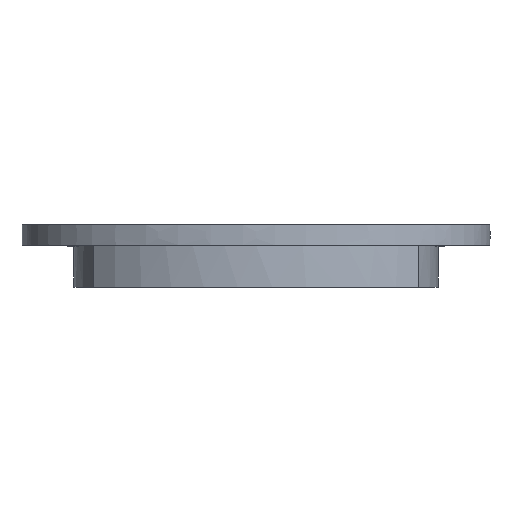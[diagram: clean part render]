
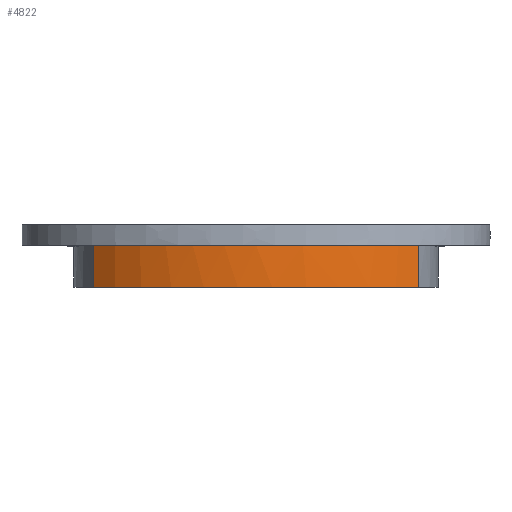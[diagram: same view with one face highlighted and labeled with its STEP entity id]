
A CAD part, front view. The second image highlights one B-rep face of the part: STEP entity #4822.
In plain terms, the highlighted free-form (B-spline) face has degree [1, 2] with [2, 5] control points.
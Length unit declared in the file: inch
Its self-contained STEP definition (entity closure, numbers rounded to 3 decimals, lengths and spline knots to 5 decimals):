
#15=(
BOUNDED_SURFACE()
B_SPLINE_SURFACE(1,2,((#9486,#9487,#9488,#9489,#9490),(#9491,#9492,#9493,
#9494,#9495)),.UNSPECIFIED.,.F.,.F.,.F.)
B_SPLINE_SURFACE_WITH_KNOTS((2,2),(3,2,3),(-0.008,0.19988),(-2.50496,
-1.5708,-0.63664),.UNSPECIFIED.)
GEOMETRIC_REPRESENTATION_ITEM()
RATIONAL_B_SPLINE_SURFACE(((1.,0.893,1.,0.893,1.),
(1.,0.893,1.,0.893,1.)))
REPRESENTATION_ITEM('')
SURFACE()
);
#18=ELLIPSE('',#4988,2.5,1.7);
#329=B_SPLINE_CURVE_WITH_KNOTS('',3,(#9497,#9498,#9499,#9500,#9501,#9502,
#9503,#9504),.UNSPECIFIED.,.F.,.F.,(4,2,2,4),(-5.3184,-4.86014,
-2.03043,0.),.UNSPECIFIED.);
#330=B_SPLINE_CURVE_WITH_KNOTS('',3,(#9506,#9507,#9508,#9509,#9510,#9511,
#9512,#9513),.UNSPECIFIED.,.F.,.F.,(4,2,2,4),(-10.37834,-9.11667,
-7.75661,-5.3184),.UNSPECIFIED.);
#906=LINE('',#9484,#1245);
#908=LINE('',#9514,#1247);
#1245=VECTOR('',#5674,0.3937);
#1247=VECTOR('',#5676,0.3937);
#1497=FACE_OUTER_BOUND('',#1822,.T.);
#1822=EDGE_LOOP('',(#4321,#4322,#4323,#4324,#4325));
#2304=VERTEX_POINT('',#9074);
#2305=VERTEX_POINT('',#9076);
#2365=VERTEX_POINT('',#9466);
#2367=VERTEX_POINT('',#9496);
#2368=VERTEX_POINT('',#9505);
#2935=EDGE_CURVE('',#2304,#2305,#18,.T.);
#3012=EDGE_CURVE('',#2365,#2304,#906,.T.);
#3014=EDGE_CURVE('',#2367,#2365,#329,.T.);
#3015=EDGE_CURVE('',#2368,#2367,#330,.T.);
#3016=EDGE_CURVE('',#2305,#2368,#908,.T.);
#4321=ORIENTED_EDGE('',*,*,#3014,.F.);
#4322=ORIENTED_EDGE('',*,*,#3015,.F.);
#4323=ORIENTED_EDGE('',*,*,#3016,.F.);
#4324=ORIENTED_EDGE('',*,*,#2935,.F.);
#4325=ORIENTED_EDGE('',*,*,#3012,.F.);
#4822=ADVANCED_FACE('',(#1497),#15,.F.);
#4988=AXIS2_PLACEMENT_3D('',#9077,#5545,#5546);
#5545=DIRECTION('center_axis',(0.,0.,-1.));
#5546=DIRECTION('ref_axis',(1.,0.,0.));
#5674=DIRECTION('',(0.,0.,-1.));
#5676=DIRECTION('',(0.,0.,1.));
#9074=CARTESIAN_POINT('',(2.01025,-1.01064,-0.02));
#9076=CARTESIAN_POINT('',(-2.01025,-1.01064,-0.02));
#9077=CARTESIAN_POINT('Origin',(0.,0.,-0.02));
#9466=CARTESIAN_POINT('',(2.01025,-1.01064,0.49971));
#9484=CARTESIAN_POINT('',(2.01025,-1.01064,0.));
#9486=CARTESIAN_POINT('Ctrl Pts',(-2.01025,-1.01064,-0.02));
#9487=CARTESIAN_POINT('Ctrl Pts',(-1.26075,-1.7,-0.02));
#9488=CARTESIAN_POINT('Ctrl Pts',(0.,-1.7,-0.02));
#9489=CARTESIAN_POINT('Ctrl Pts',(1.26075,-1.7,-0.02));
#9490=CARTESIAN_POINT('Ctrl Pts',(2.01025,-1.01064,-0.02));
#9491=CARTESIAN_POINT('Ctrl Pts',(-2.01025,-1.01064,0.49971));
#9492=CARTESIAN_POINT('Ctrl Pts',(-1.26075,-1.7,0.49971));
#9493=CARTESIAN_POINT('Ctrl Pts',(0.,-1.7,0.49971));
#9494=CARTESIAN_POINT('Ctrl Pts',(1.26075,-1.7,0.49971));
#9495=CARTESIAN_POINT('Ctrl Pts',(2.01025,-1.01064,0.49971));
#9496=CARTESIAN_POINT('',(0.,-1.7,0.49826));
#9497=CARTESIAN_POINT('Ctrl Pts',(0.,-1.7,0.49826));
#9498=CARTESIAN_POINT('Ctrl Pts',(0.06582,-1.7,0.49826));
#9499=CARTESIAN_POINT('Ctrl Pts',(0.13153,-1.69823,0.49826));
#9500=CARTESIAN_POINT('Ctrl Pts',(0.60097,-1.673,0.49838));
#9501=CARTESIAN_POINT('Ctrl Pts',(0.99085,-1.58493,0.49876));
#9502=CARTESIAN_POINT('Ctrl Pts',(1.5797,-1.33237,0.49934));
#9503=CARTESIAN_POINT('Ctrl Pts',(1.81413,-1.19102,0.49956));
#9504=CARTESIAN_POINT('Ctrl Pts',(2.01025,-1.01064,0.49971));
#9505=CARTESIAN_POINT('',(-2.01025,-1.01064,0.49971));
#9506=CARTESIAN_POINT('Ctrl Pts',(-2.01025,-1.01064,0.49971));
#9507=CARTESIAN_POINT('Ctrl Pts',(-1.87826,-1.13204,0.49961));
#9508=CARTESIAN_POINT('Ctrl Pts',(-1.72897,-1.23558,0.49948));
#9509=CARTESIAN_POINT('Ctrl Pts',(-1.4019,-1.41536,0.49917));
#9510=CARTESIAN_POINT('Ctrl Pts',(-1.22081,-1.48996,0.49898));
#9511=CARTESIAN_POINT('Ctrl Pts',(-0.70366,-1.65002,
0.4985));
#9512=CARTESIAN_POINT('Ctrl Pts',(-0.35021,-1.7,0.49826));
#9513=CARTESIAN_POINT('Ctrl Pts',(0.,-1.7,0.49826));
#9514=CARTESIAN_POINT('',(-2.01025,-1.01064,0.));
